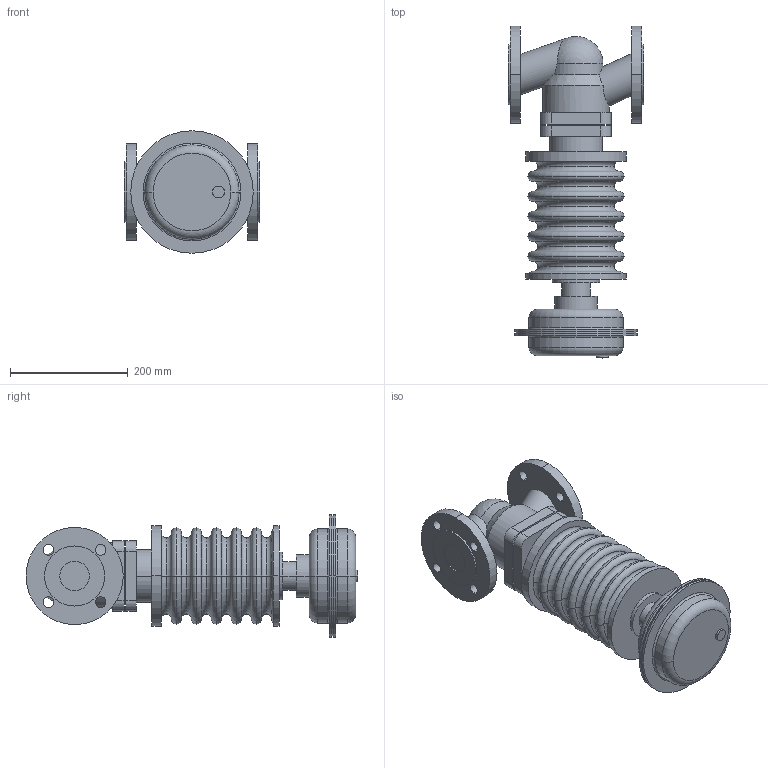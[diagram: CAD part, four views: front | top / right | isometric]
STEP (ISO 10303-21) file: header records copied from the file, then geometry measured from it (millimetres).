
FILE_DESCRIPTION(('OneSpaceDesigner STEP Export'),'2;1');
FILE_NAME('c000000571.stp','2006-08-30T 9:46:19',(''),(''),'OneSpace Designer STEP processor for AP203 (Solid Model)','OneSpace Designer 13.20A 18-Aug-2005 (C) CoCreate Software GmbH','');
FILE_SCHEMA(('CONFIG_CONTROL_DESIGN'));
Length unit declared in the file: millimetre
Products named in the file (1): 2
Bounding box: 230 x 563.5 x 208 mm (x, y, z)
Volume: 8347405.9 mm3; surface area: 518639.7 mm2
Topology: 1 solids, 1 shells, 176 faces, 408 edges, 257 vertices
Faces by surface type: cylinder 70, torus 54, plane 48, cone 2, sphere 2
Entity records: 4600 total; most frequent: CARTESIAN_POINT 949, ORIENTED_EDGE 812, DIRECTION 669, EDGE_CURVE 406, AXIS2_PLACEMENT_3D 271, VERTEX_POINT 257, EDGE_LOOP 217, FACE_OUTER_BOUND 176
